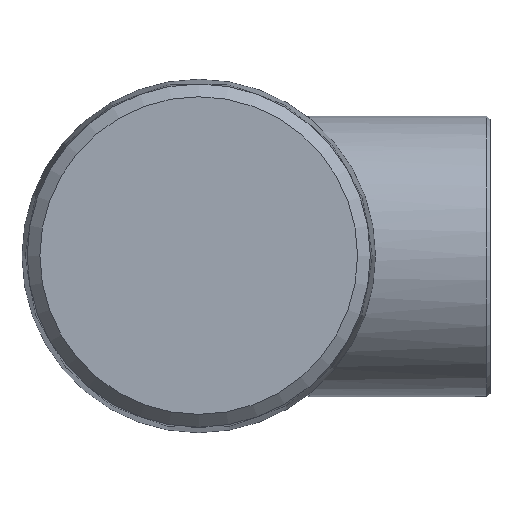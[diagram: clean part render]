
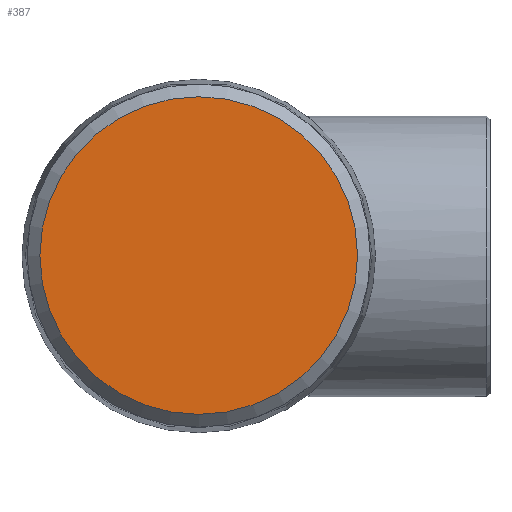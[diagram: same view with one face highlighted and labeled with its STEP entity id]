
A CAD part, top view. The second image highlights one B-rep face of the part: STEP entity #387.
In plain terms, the highlighted planar face has unit normal (0, 0, 1).
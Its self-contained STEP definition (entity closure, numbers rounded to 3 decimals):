
#31=PLANE('',#443);
#75=FACE_OUTER_BOUND('',#112,.T.);
#112=EDGE_LOOP('',(#346));
#160=CIRCLE('',#444,16.634);
#206=VERTEX_POINT('',#770);
#254=EDGE_CURVE('',#206,#206,#160,.T.);
#346=ORIENTED_EDGE('',*,*,#254,.F.);
#387=ADVANCED_FACE('',(#75),#31,.T.);
#443=AXIS2_PLACEMENT_3D('',#769,#550,#551);
#444=AXIS2_PLACEMENT_3D('',#771,#552,#553);
#550=DIRECTION('center_axis',(0.,0.,1.));
#551=DIRECTION('ref_axis',(1.,0.,0.));
#552=DIRECTION('center_axis',(0.,0.,-1.));
#553=DIRECTION('ref_axis',(-1.,0.,0.));
#769=CARTESIAN_POINT('Origin',(-8.317,0.,47.2));
#770=CARTESIAN_POINT('',(-16.634,0.,47.2));
#771=CARTESIAN_POINT('Origin',(0.,0.,47.2));
